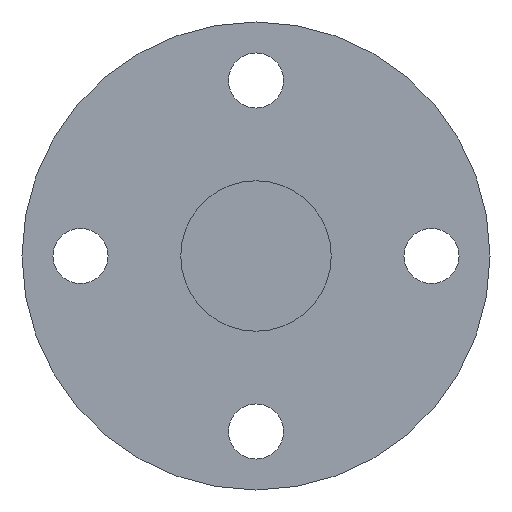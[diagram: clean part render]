
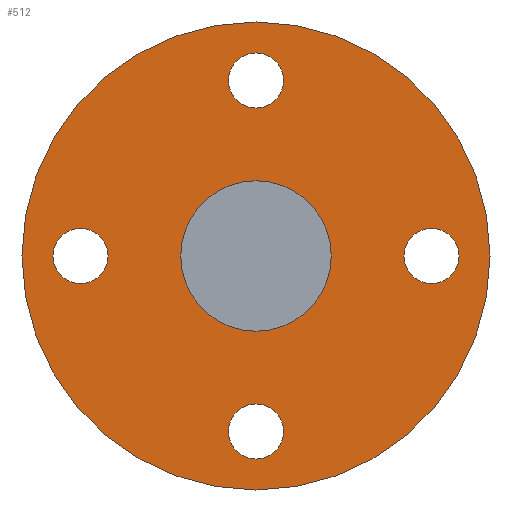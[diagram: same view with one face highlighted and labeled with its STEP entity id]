
A CAD part, left-side view. The second image highlights one B-rep face of the part: STEP entity #512.
In plain terms, the highlighted planar face has unit normal (-1, 0, 0).
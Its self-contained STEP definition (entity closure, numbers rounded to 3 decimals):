
#401=CARTESIAN_POINT('',(130.0,21.0,-3.3));
#402=VERTEX_POINT('',#401);
#403=CARTESIAN_POINT('',(130.0,21.0,0.));
#404=DIRECTION('',(1.0,0.0,0.0));
#405=DIRECTION('',(0.0,0.0,-1.0));
#406=AXIS2_PLACEMENT_3D('',#403,#404,#405);
#407=CIRCLE('',#406,3.3);
#408=EDGE_CURVE('',#402,#402,#407,.T.);
#421=CARTESIAN_POINT('',(130.0,-3.3,-21.0));
#422=VERTEX_POINT('',#421);
#423=CARTESIAN_POINT('',(130.0,0.,-21.0));
#424=DIRECTION('',(1.0,0.0,0.0));
#425=DIRECTION('',(0.0,-1.0,0.0));
#426=AXIS2_PLACEMENT_3D('',#423,#424,#425);
#427=CIRCLE('',#426,3.3);
#428=EDGE_CURVE('',#422,#422,#427,.T.);
#441=CARTESIAN_POINT('',(130.0,-21.0,3.3));
#442=VERTEX_POINT('',#441);
#443=CARTESIAN_POINT('',(130.0,-21.0,0.));
#444=DIRECTION('',(1.0,0.0,0.0));
#445=DIRECTION('',(0.0,0.0,1.0));
#446=AXIS2_PLACEMENT_3D('',#443,#444,#445);
#447=CIRCLE('',#446,3.3);
#448=EDGE_CURVE('',#442,#442,#447,.T.);
#461=CARTESIAN_POINT('',(130.0,3.3,21.0));
#462=VERTEX_POINT('',#461);
#463=CARTESIAN_POINT('',(130.0,0.0,21.0));
#464=DIRECTION('',(1.0,0.0,0.0));
#465=DIRECTION('',(0.0,1.0,0.0));
#466=AXIS2_PLACEMENT_3D('',#463,#464,#465);
#467=CIRCLE('',#466,3.3);
#468=EDGE_CURVE('',#462,#462,#467,.T.);
#473=CARTESIAN_POINT('',(130.0,0.0,18.5));
#474=DIRECTION('',(-1.0,0.0,0.0));
#475=DIRECTION('',(0.0,0.0,1.0));
#476=AXIS2_PLACEMENT_3D('',#473,#474,#475);
#477=PLANE('',#476);
#478=CARTESIAN_POINT('',(130.0,0.0,28.));
#479=VERTEX_POINT('',#478);
#480=CARTESIAN_POINT('',(130.0,0.0,0.0));
#481=DIRECTION('',(-1.0,0.0,0.0));
#482=DIRECTION('',(0.0,0.0,1.0));
#483=AXIS2_PLACEMENT_3D('',#480,#481,#482);
#484=CIRCLE('',#483,28.);
#485=EDGE_CURVE('',#479,#479,#484,.T.);
#486=ORIENTED_EDGE('',*,*,#485,.T.);
#487=EDGE_LOOP('',(#486));
#488=FACE_OUTER_BOUND('',#487,.T.);
#489=ORIENTED_EDGE('',*,*,#408,.T.);
#490=EDGE_LOOP('',(#489));
#491=FACE_BOUND('',#490,.T.);
#492=ORIENTED_EDGE('',*,*,#428,.T.);
#493=EDGE_LOOP('',(#492));
#494=FACE_BOUND('',#493,.T.);
#495=ORIENTED_EDGE('',*,*,#448,.T.);
#496=EDGE_LOOP('',(#495));
#497=FACE_BOUND('',#496,.T.);
#498=ORIENTED_EDGE('',*,*,#468,.T.);
#499=EDGE_LOOP('',(#498));
#500=FACE_BOUND('',#499,.T.);
#501=CARTESIAN_POINT('',(130.0,0.0,9.));
#502=VERTEX_POINT('',#501);
#503=CARTESIAN_POINT('',(130.0,0.0,0.0));
#504=DIRECTION('',(-1.0,0.0,0.0));
#505=DIRECTION('',(0.0,0.0,1.0));
#506=AXIS2_PLACEMENT_3D('',#503,#504,#505);
#507=CIRCLE('',#506,9.);
#508=EDGE_CURVE('',#502,#502,#507,.T.);
#509=ORIENTED_EDGE('',*,*,#508,.F.);
#510=EDGE_LOOP('',(#509));
#511=FACE_BOUND('',#510,.T.);
#512=ADVANCED_FACE('',(#488,#491,#494,#497,#500,#511),#477,.T.);
